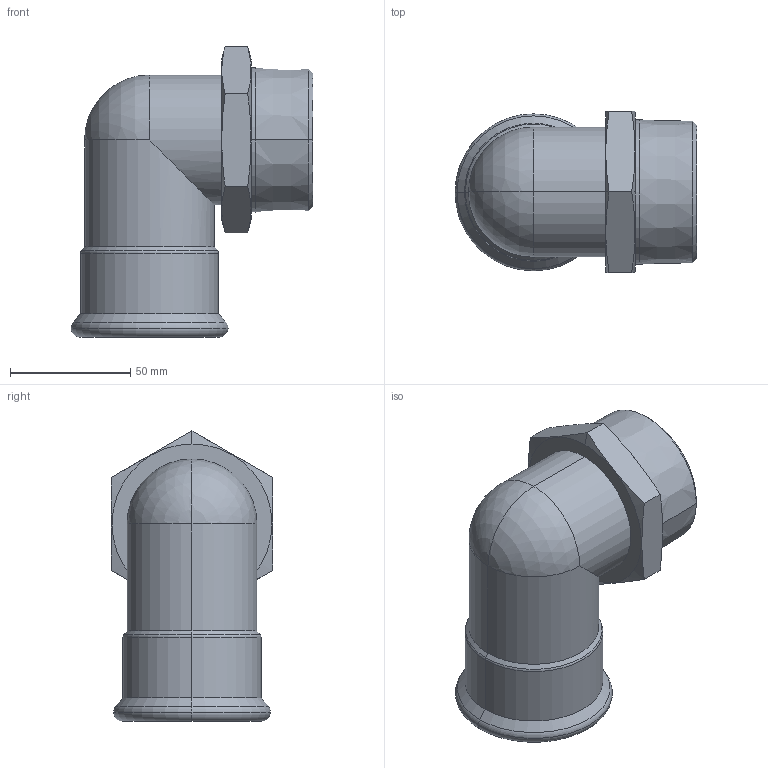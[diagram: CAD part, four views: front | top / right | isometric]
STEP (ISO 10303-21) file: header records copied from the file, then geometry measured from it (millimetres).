
FILE_DESCRIPTION(('OneSpaceDesigner STEP Export'),'2;1');
FILE_NAME('R2728 54xR2.stp','2010-06-10T13:24:28',(''),(''),'OneSpace Designer STEP processor for AP214 (Solid Model)','OneSpace Modeling 15.00A 14-Mar-2007 (C) CoCreate Software GmbH','');
FILE_SCHEMA(('AUTOMOTIVE_DESIGN { 1 0 10303 214 1 1 1 1 }'));
Length unit declared in the file: millimetre
Products named in the file (2): R2728_54xR2
Assembly tree (1 placements, depth 2):
  R2728_54xR2
    R2728_54xR2
Bounding box: 100.65 x 67 x 120.68 mm (x, y, z)
Volume: 72916.2 mm3; surface area: 58498.5 mm2
Topology: 1 solids, 1 shells, 126 faces, 321 edges, 204 vertices
Faces by surface type: plane 68, cylinder 36, cone 12, torus 6, sphere 4
Entity records: 4255 total; most frequent: CARTESIAN_POINT 1451, ORIENTED_EDGE 634, DIRECTION 484, EDGE_CURVE 317, VERTEX_POINT 204, VECTOR 186, LINE 186, EDGE_LOOP 151
